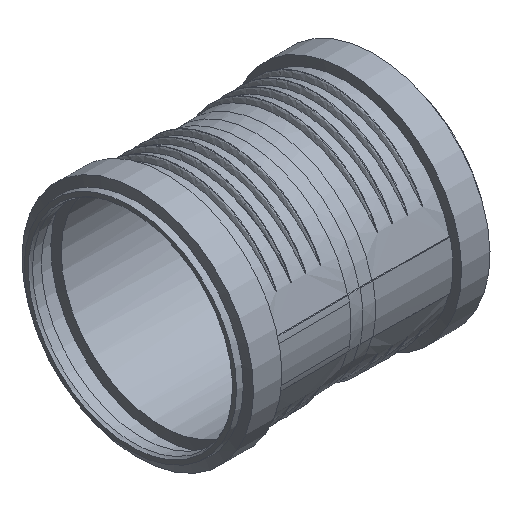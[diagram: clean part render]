
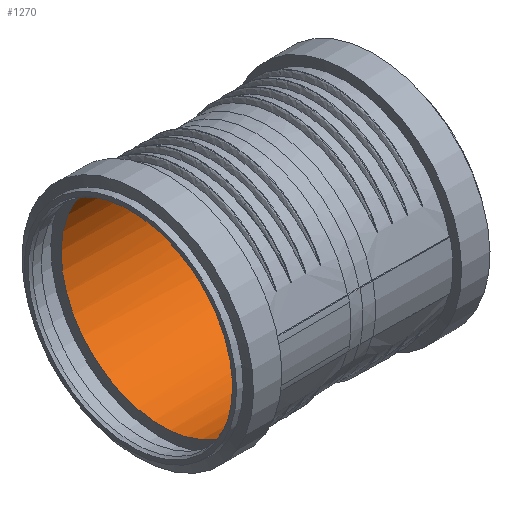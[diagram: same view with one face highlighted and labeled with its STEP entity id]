
A CAD part, isometric view. The second image highlights one B-rep face of the part: STEP entity #1270.
In plain terms, the highlighted cylindrical face has radius 55.5 mm (diameter 111 mm), a full revolution.
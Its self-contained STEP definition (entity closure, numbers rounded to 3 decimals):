
#157=CYLINDRICAL_SURFACE('',#1378,55.5);
#166=FACE_OUTER_BOUND('',#247,.T.);
#247=EDGE_LOOP('',(#815,#816,#817,#818,#819));
#346=LINE('',#1796,#371);
#371=VECTOR('',#1522,55.5);
#393=CIRCLE('',#1372,55.5);
#397=CIRCLE('',#1379,55.5);
#398=CIRCLE('',#1380,55.5);
#494=VERTEX_POINT('',#1778);
#498=VERTEX_POINT('',#1792);
#499=VERTEX_POINT('',#1793);
#617=EDGE_CURVE('',#494,#494,#393,.T.);
#624=EDGE_CURVE('',#498,#499,#397,.T.);
#625=EDGE_CURVE('',#499,#498,#398,.T.);
#626=EDGE_CURVE('',#499,#494,#346,.T.);
#815=ORIENTED_EDGE('',*,*,#624,.F.);
#816=ORIENTED_EDGE('',*,*,#625,.F.);
#817=ORIENTED_EDGE('',*,*,#626,.T.);
#818=ORIENTED_EDGE('',*,*,#617,.T.);
#819=ORIENTED_EDGE('',*,*,#626,.F.);
#1270=ADVANCED_FACE('',(#166),#157,.F.);
#1372=AXIS2_PLACEMENT_3D('',#1779,#1501,#1502);
#1378=AXIS2_PLACEMENT_3D('',#1791,#1516,#1517);
#1379=AXIS2_PLACEMENT_3D('',#1794,#1518,#1519);
#1380=AXIS2_PLACEMENT_3D('',#1795,#1520,#1521);
#1501=DIRECTION('center_axis',(1.,0.,0.));
#1502=DIRECTION('ref_axis',(0.,0.878,0.479));
#1516=DIRECTION('center_axis',(1.,0.,0.));
#1517=DIRECTION('ref_axis',(0.,0.878,0.479));
#1518=DIRECTION('center_axis',(1.,0.,0.));
#1519=DIRECTION('ref_axis',(0.,0.878,0.479));
#1520=DIRECTION('center_axis',(1.,0.,0.));
#1521=DIRECTION('ref_axis',(0.,0.878,0.479));
#1522=DIRECTION('',(1.,0.,0.));
#1778=CARTESIAN_POINT('',(52.27,-48.706,-26.608));
#1779=CARTESIAN_POINT('Origin',(52.27,0.,0.));
#1791=CARTESIAN_POINT('Origin',(20.86,0.,0.));
#1792=CARTESIAN_POINT('',(-52.27,48.706,-26.608));
#1793=CARTESIAN_POINT('',(-52.27,-48.706,-26.608));
#1794=CARTESIAN_POINT('Origin',(-52.27,0.,0.));
#1795=CARTESIAN_POINT('Origin',(-52.27,0.,0.));
#1796=CARTESIAN_POINT('',(20.86,-48.706,-26.608));
